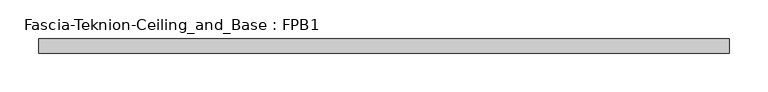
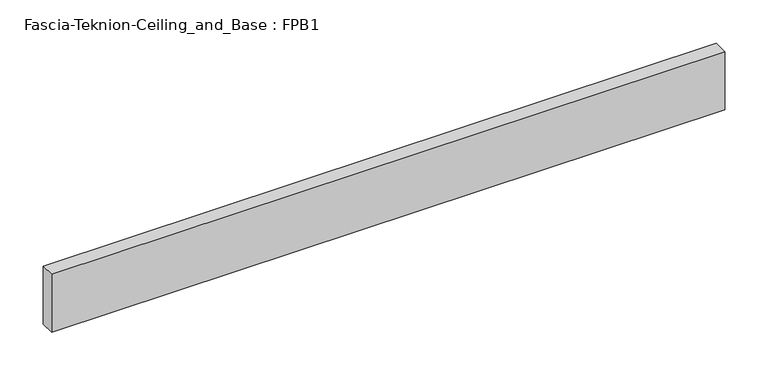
"""IFC4 building model written with IfcOpenShell, lengths in millimetres: proxy geometry, Fascia-Teknion-Ceiling_and_Base : FPB1."""

from ifc_helpers import new_model, si_unit, origin, origin_with_axes, place, context, project, spatial, polyline, outline, extrude, source, transform, mapped, element, save


def fascia_teknion_ceiling_and_base_fpb1_c09701a2(model_context):
    return source(origin(), model_context, "Body", "SweptSolid", [
        extrude(outline(polyline([(447.0356344, 0.0), (447.0356344, -19.05), (-447.0356344, -19.05), (-447.0356344, 0.0), (447.0356344, 0.0)])), origin_with_axes(), (0.0, 0.0, 1.0), 81.28),
    ])


if __name__ == "__main__":
    model = new_model("IFC4")
    model_context = context("Model", 3, world=origin())
    ifc_project = project(units=[si_unit("LENGTHUNIT", "METRE", prefix="MILLI")], contexts=[model_context])
    site = spatial("IfcSite", under=ifc_project)
    building = spatial("IfcBuilding", under=site)
    placement = place(None, origin())
    fascia_teknion_ceiling_and_base_fpb1_shape = fascia_teknion_ceiling_and_base_fpb1_c09701a2(model_context)
    element("IfcBuildingElementProxy", 1, Name="Fascia-Teknion-Ceiling_and_Base : FPB1", ObjectType="Fascia-Teknion-Ceiling_and_Base : FPB1", at=placement, inside=building, context=model_context, shape_type="MappedRepresentation", body=[
        mapped(fascia_teknion_ceiling_and_base_fpb1_shape, transform((0.0, 0.0, 0.0), x_axis=(1.0, 0.0, 0.0), y_axis=(0.0, 1.0, 0.0), z_axis=(0.0, 0.0, 1.0))),
    ])
    save(model, "model.ifc")
